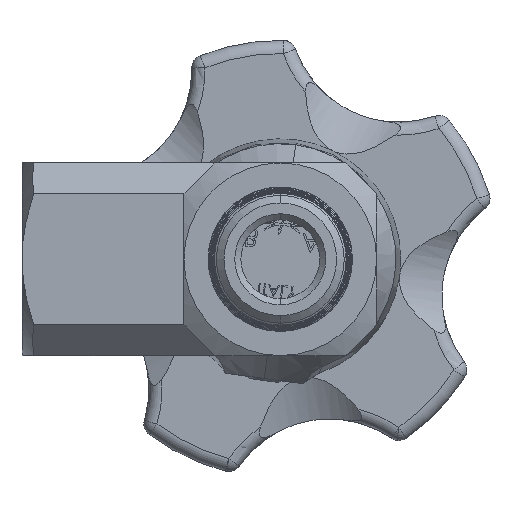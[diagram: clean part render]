
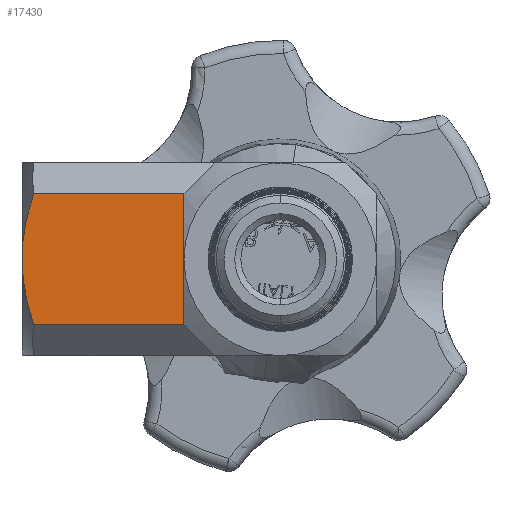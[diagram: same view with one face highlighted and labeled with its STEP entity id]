
A CAD part, front view. The second image highlights one B-rep face of the part: STEP entity #17430.
In plain terms, the highlighted planar face has unit normal (0, -1, 0).
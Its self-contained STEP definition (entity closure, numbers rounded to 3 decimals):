
#467 = ORIENTED_EDGE ( 'NONE', *, *, #1319, .T. ) ;
#695 = B_SPLINE_CURVE_WITH_KNOTS ( 'NONE', 3,
 ( #33461, #15143, #4794, #23055, #7396, #25693, #10010, #28292 ),
 .UNSPECIFIED., .F., .F.,
 ( 4, 2, 2, 4 ),
 ( 0.028, 0.032, 0.034, 0.036 ),
 .UNSPECIFIED. ) ;
#1319 = EDGE_CURVE ( 'NONE', #16177, #15767, #19047, .T. ) ;
#1479 = FACE_OUTER_BOUND ( 'NONE', #12536, .T. ) ;
#1723 = DIRECTION ( 'NONE',  ( -1., 0., 0. ) ) ;
#3560 = VERTEX_POINT ( 'NONE', #23147 ) ;
#4178 = DIRECTION ( 'NONE',  ( 0., -1., 0. ) ) ;
#4794 = CARTESIAN_POINT ( 'NONE',  ( -28.894, -11., 5.058 ) ) ;
#5536 = CARTESIAN_POINT ( 'NONE',  ( -29.5, -11., 0. ) ) ;
#6561 = VECTOR ( 'NONE', #8010, 1000. ) ;
#7102 = CARTESIAN_POINT ( 'NONE',  ( -29.5, -11., 0. ) ) ;
#7396 = CARTESIAN_POINT ( 'NONE',  ( -29.341, -11., 2.555 ) ) ;
#8010 = DIRECTION ( 'NONE',  ( 1., 0., 0. ) ) ;
#8750 = DIRECTION ( 'NONE',  ( 0., 0., -1. ) ) ;
#9063 = CARTESIAN_POINT ( 'NONE',  ( -28.164, -11., 7.5 ) ) ;
#9312 = PLANE ( 'NONE',  #21814 ) ;
#9745 = CARTESIAN_POINT ( 'NONE',  ( -28.898, -11., -5.043 ) ) ;
#10010 = CARTESIAN_POINT ( 'NONE',  ( -29.5, -11., 0.638 ) ) ;
#10205 = LINE ( 'NONE', #17490, #24132 ) ;
#11557 = EDGE_CURVE ( 'NONE', #23785, #3560, #29240, .T. ) ;
#12343 = CARTESIAN_POINT ( 'NONE',  ( -28.164, -11., -7.5 ) ) ;
#12536 = EDGE_LOOP ( 'NONE', ( #15805, #29371, #467, #25487, #17903 ) ) ;
#15143 = CARTESIAN_POINT ( 'NONE',  ( -28.559, -11., 6.285 ) ) ;
#15312 = VECTOR ( 'NONE', #8750, 1000. ) ;
#15767 = VERTEX_POINT ( 'NONE', #22058 ) ;
#15805 = ORIENTED_EDGE ( 'NONE', *, *, #29352, .T. ) ;
#16177 = VERTEX_POINT ( 'NONE', #5536 ) ;
#16194 = EDGE_CURVE ( 'NONE', #15767, #3560, #26584, .T. ) ;
#16577 = CARTESIAN_POINT ( 'NONE',  ( -11., -11., 7.5 ) ) ;
#17430 = ADVANCED_FACE ( 'NONE', ( #1479 ), #9312, .T. ) ;
#17490 = CARTESIAN_POINT ( 'NONE',  ( -29.5, -11., 7.5 ) ) ;
#17903 = ORIENTED_EDGE ( 'NONE', *, *, #11557, .F. ) ;
#19047 = B_SPLINE_CURVE_WITH_KNOTS ( 'NONE', 3,
 ( #7102, #22759, #25383, #9745, #28006, #12343 ),
 .UNSPECIFIED., .F., .F.,
 ( 4, 2, 4 ),
 ( 0.036, 0.04, 0.043 ),
 .UNSPECIFIED. ) ;
#19803 = CARTESIAN_POINT ( 'NONE',  ( -29.5, -11., 11. ) ) ;
#21814 = AXIS2_PLACEMENT_3D ( 'NONE', #19803, #4178, #22414 ) ;
#22058 = CARTESIAN_POINT ( 'NONE',  ( -28.164, -11., -7.5 ) ) ;
#22414 = DIRECTION ( 'NONE',  ( 0., 0., -1. ) ) ;
#22759 = CARTESIAN_POINT ( 'NONE',  ( -29.5, -11., -1.278 ) ) ;
#23055 = CARTESIAN_POINT ( 'NONE',  ( -29.248, -11., 3.185 ) ) ;
#23147 = CARTESIAN_POINT ( 'NONE',  ( -11., -11., -7.5 ) ) ;
#23785 = VERTEX_POINT ( 'NONE', #16577 ) ;
#24132 = VECTOR ( 'NONE', #1723, 1000. ) ;
#24412 = CARTESIAN_POINT ( 'NONE',  ( -11., -11., -11. ) ) ;
#24546 = EDGE_CURVE ( 'NONE', #30404, #16177, #695, .T. ) ;
#25383 = CARTESIAN_POINT ( 'NONE',  ( -29.369, -11., -2.541 ) ) ;
#25487 = ORIENTED_EDGE ( 'NONE', *, *, #16194, .T. ) ;
#25693 = CARTESIAN_POINT ( 'NONE',  ( -29.467, -11., 1.283 ) ) ;
#26411 = CARTESIAN_POINT ( 'NONE',  ( -11., -11., -7.5 ) ) ;
#26584 = LINE ( 'NONE', #26411, #6561 ) ;
#28006 = CARTESIAN_POINT ( 'NONE',  ( -28.559, -11., -6.287 ) ) ;
#28292 = CARTESIAN_POINT ( 'NONE',  ( -29.5, -11., 0. ) ) ;
#29240 = LINE ( 'NONE', #24412, #15312 ) ;
#29352 = EDGE_CURVE ( 'NONE', #23785, #30404, #10205, .T. ) ;
#29371 = ORIENTED_EDGE ( 'NONE', *, *, #24546, .T. ) ;
#30404 = VERTEX_POINT ( 'NONE', #9063 ) ;
#33461 = CARTESIAN_POINT ( 'NONE',  ( -28.164, -11., 7.5 ) ) ;
